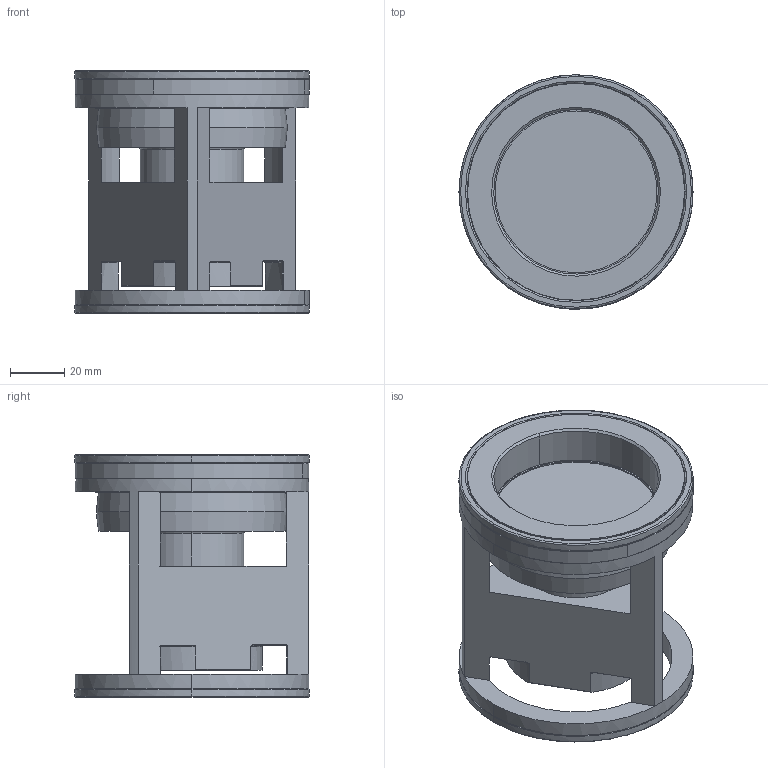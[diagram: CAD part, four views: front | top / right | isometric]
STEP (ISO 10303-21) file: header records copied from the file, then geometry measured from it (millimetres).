
FILE_DESCRIPTION (( 'STEP AP214' ), '1' );
FILE_NAME ('IGS-A-48-N015~.STEP', '2025-03-05T16:18:29', ( '' ), ( '' ), 'SwSTEP 2.0', 'SolidWorks 2023', '' );
FILE_SCHEMA (( 'AUTOMOTIVE_DESIGN' ));
Length unit declared in the file: inch
Products named in the file (1): IGS-A-48-N015~
Bounding box: 85.95 x 85.95 x 89.08 mm (x, y, z)
Volume: 224247 mm3; surface area: 48662.9 mm2
Topology: 1 solids, 4 shells, 166 faces, 434 edges, 276 vertices
Faces by surface type: plane 57, cylinder 44, torus 33, cone 14, bspline 14, sphere 4
Entity records: 7008 total; most frequent: CARTESIAN_POINT 2903, ORIENTED_EDGE 868, DIRECTION 849, EDGE_CURVE 434, AXIS2_PLACEMENT_3D 336, VERTEX_POINT 276, EDGE_LOOP 184, CIRCLE 183
